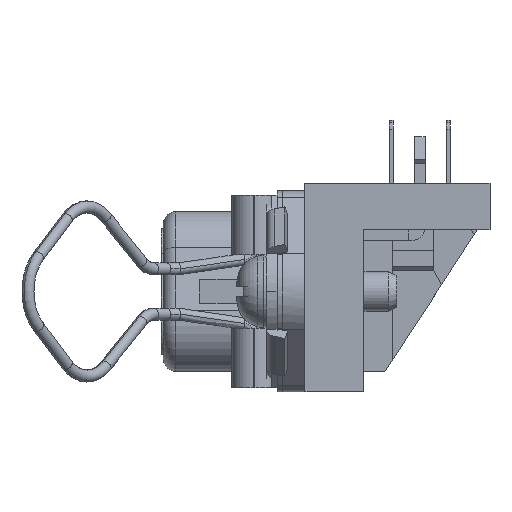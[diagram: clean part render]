
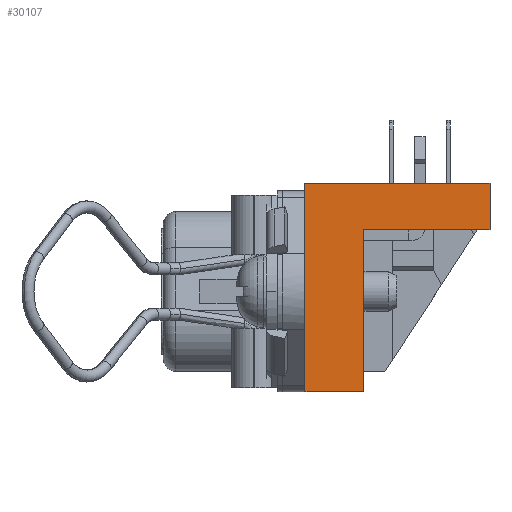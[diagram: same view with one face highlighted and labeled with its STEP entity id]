
A CAD part, left-side view. The second image highlights one B-rep face of the part: STEP entity #30107.
In plain terms, the highlighted planar face has unit normal (-1, 0, 0).
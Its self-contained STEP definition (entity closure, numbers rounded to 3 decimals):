
#31 = CARTESIAN_POINT ( 'NONE',  ( -27.39, 1.2, -7.55 ) ) ;
#194 = CARTESIAN_POINT ( 'NONE',  ( -27.39, 1.2, 0. ) ) ;
#204 = EDGE_CURVE ( 'NONE', #33776, #19902, #39132, .T. ) ;
#1249 = CARTESIAN_POINT ( 'NONE',  ( -27.39, -12.7, -7.55 ) ) ;
#2853 = VECTOR ( 'NONE', #30666, 1000. ) ;
#3195 = ORIENTED_EDGE ( 'NONE', *, *, #39899, .T. ) ;
#4846 = ORIENTED_EDGE ( 'NONE', *, *, #6841, .F. ) ;
#6062 = CARTESIAN_POINT ( 'NONE',  ( -27.39, -3.2, -7.55 ) ) ;
#6784 = CARTESIAN_POINT ( 'NONE',  ( -27.39, -12.7, 4.63 ) ) ;
#6841 = EDGE_CURVE ( 'NONE', #11624, #10488, #27946, .T. ) ;
#7223 = CARTESIAN_POINT ( 'NONE',  ( -27.39, 1.2, -7.55 ) ) ;
#7333 = ORIENTED_EDGE ( 'NONE', *, *, #23721, .F. ) ;
#7405 = DIRECTION ( 'NONE',  ( -1., 0., 0. ) ) ;
#7710 = DIRECTION ( 'NONE',  ( 0., -1., 0. ) ) ;
#8267 = ORIENTED_EDGE ( 'NONE', *, *, #15882, .T. ) ;
#9839 = VECTOR ( 'NONE', #7710, 1000. ) ;
#10316 = DIRECTION ( 'NONE',  ( 0., 0., 1. ) ) ;
#10488 = VERTEX_POINT ( 'NONE', #38785 ) ;
#10738 = VECTOR ( 'NONE', #43741, 1000. ) ;
#11624 = VERTEX_POINT ( 'NONE', #24408 ) ;
#11865 = ORIENTED_EDGE ( 'NONE', *, *, #32323, .T. ) ;
#15132 = LINE ( 'NONE', #31, #23631 ) ;
#15675 = ORIENTED_EDGE ( 'NONE', *, *, #16067, .F. ) ;
#15882 = EDGE_CURVE ( 'NONE', #11624, #32905, #15132, .T. ) ;
#16067 = EDGE_CURVE ( 'NONE', #10488, #41844, #41182, .T. ) ;
#16117 = AXIS2_PLACEMENT_3D ( 'NONE', #24124, #7405, #17920 ) ;
#16233 = LINE ( 'NONE', #40151, #29846 ) ;
#17920 = DIRECTION ( 'NONE',  ( 0., 0., -1. ) ) ;
#18252 = CARTESIAN_POINT ( 'NONE',  ( -27.39, 1.2, -7.55 ) ) ;
#19902 = VERTEX_POINT ( 'NONE', #36428 ) ;
#20298 = LINE ( 'NONE', #7223, #10738 ) ;
#21791 = ORIENTED_EDGE ( 'NONE', *, *, #204, .T. ) ;
#21881 = CARTESIAN_POINT ( 'NONE',  ( -27.39, 1.2, 8.13 ) ) ;
#23631 = VECTOR ( 'NONE', #36261, 1000. ) ;
#23721 = EDGE_CURVE ( 'NONE', #41844, #19902, #16233, .T. ) ;
#24124 = CARTESIAN_POINT ( 'NONE',  ( -27.39, 1.2, -7.55 ) ) ;
#24408 = CARTESIAN_POINT ( 'NONE',  ( -27.39, 1.2, 8.13 ) ) ;
#26118 = VECTOR ( 'NONE', #10316, 1000. ) ;
#27488 = CARTESIAN_POINT ( 'NONE',  ( -27.39, 1.2, -7.55 ) ) ;
#27946 = LINE ( 'NONE', #21881, #9839 ) ;
#29846 = VECTOR ( 'NONE', #36386, 1000. ) ;
#29946 = FACE_OUTER_BOUND ( 'NONE', #45404, .T. ) ;
#30107 = ADVANCED_FACE ( 'NONE', ( #29946 ), #45832, .T. ) ;
#30666 = DIRECTION ( 'NONE',  ( 0., -1., 0. ) ) ;
#31542 = CARTESIAN_POINT ( 'NONE',  ( -27.39, -3.2, -7.55 ) ) ;
#32323 = EDGE_CURVE ( 'NONE', #32905, #40215, #20298, .T. ) ;
#32688 = VECTOR ( 'NONE', #37492, 1000. ) ;
#32905 = VERTEX_POINT ( 'NONE', #194 ) ;
#33776 = VERTEX_POINT ( 'NONE', #31542 ) ;
#36261 = DIRECTION ( 'NONE',  ( 0., 0., -1. ) ) ;
#36290 = LINE ( 'NONE', #27488, #2853 ) ;
#36386 = DIRECTION ( 'NONE',  ( 0., 1., 0. ) ) ;
#36428 = CARTESIAN_POINT ( 'NONE',  ( -27.39, -3.2, 4.63 ) ) ;
#37492 = DIRECTION ( 'NONE',  ( 0., 0., -1. ) ) ;
#38785 = CARTESIAN_POINT ( 'NONE',  ( -27.39, -12.7, 8.13 ) ) ;
#39132 = LINE ( 'NONE', #6062, #26118 ) ;
#39899 = EDGE_CURVE ( 'NONE', #40215, #33776, #36290, .T. ) ;
#40151 = CARTESIAN_POINT ( 'NONE',  ( -27.39, 1.2, 4.63 ) ) ;
#40215 = VERTEX_POINT ( 'NONE', #18252 ) ;
#41182 = LINE ( 'NONE', #1249, #32688 ) ;
#41844 = VERTEX_POINT ( 'NONE', #6784 ) ;
#43741 = DIRECTION ( 'NONE',  ( 0., 0., -1. ) ) ;
#45404 = EDGE_LOOP ( 'NONE', ( #7333, #15675, #4846, #8267, #11865, #3195, #21791 ) ) ;
#45832 = PLANE ( 'NONE',  #16117 ) ;
